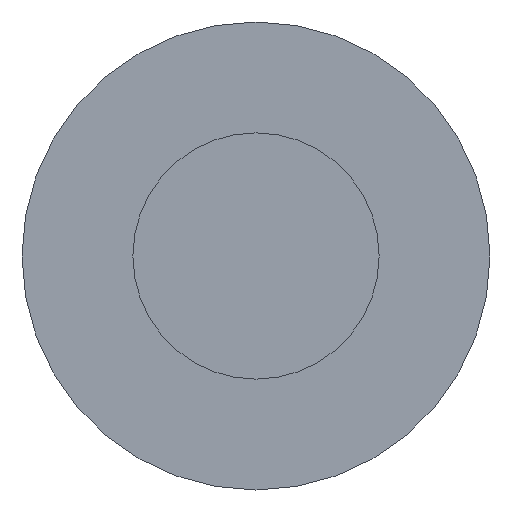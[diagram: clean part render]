
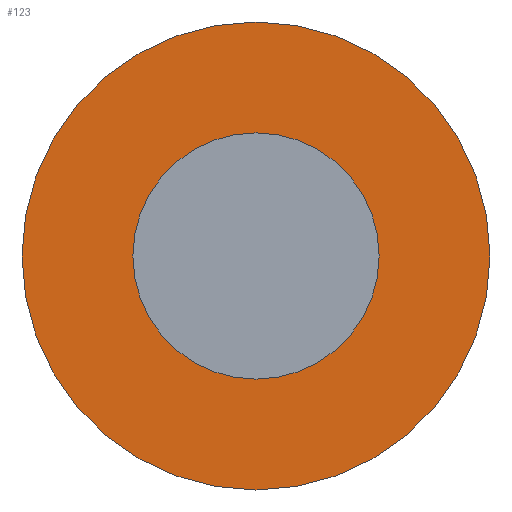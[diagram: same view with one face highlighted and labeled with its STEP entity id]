
A CAD part, front view. The second image highlights one B-rep face of the part: STEP entity #123.
In plain terms, the highlighted planar face has unit normal (0, -1, 0).
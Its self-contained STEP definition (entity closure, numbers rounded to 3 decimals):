
#39 = EDGE_CURVE('',#40,#40,#42,.T.);
#40 = VERTEX_POINT('',#41);
#41 = CARTESIAN_POINT('',(23.9,-3.7,-65.8));
#42 = SURFACE_CURVE('',#43,(#48,#60),.PCURVE_S1.);
#43 = CIRCLE('',#44,1.9);
#44 = AXIS2_PLACEMENT_3D('',#45,#46,#47);
#45 = CARTESIAN_POINT('',(22.,-3.7,-65.8));
#46 = DIRECTION('',(0.,-1.,0.));
#47 = DIRECTION('',(1.,0.,0.));
#48 = PCURVE('',#49,#54);
#49 = CYLINDRICAL_SURFACE('',#50,1.9);
#50 = AXIS2_PLACEMENT_3D('',#51,#52,#53);
#51 = CARTESIAN_POINT('',(22.,-1.7,-65.8));
#52 = DIRECTION('',(0.,-1.,0.));
#53 = DIRECTION('',(1.,0.,0.));
#54 = DEFINITIONAL_REPRESENTATION('',(#55),#59);
#55 = LINE('',#56,#57);
#56 = CARTESIAN_POINT('',(0.,2.));
#57 = VECTOR('',#58,1.);
#58 = DIRECTION('',(1.,0.));
#59 = ( GEOMETRIC_REPRESENTATION_CONTEXT(2) 
PARAMETRIC_REPRESENTATION_CONTEXT() REPRESENTATION_CONTEXT('2D SPACE',''
  ) );
#60 = PCURVE('',#61,#66);
#61 = PLANE('',#62);
#62 = AXIS2_PLACEMENT_3D('',#63,#64,#65);
#63 = CARTESIAN_POINT('',(22.,-3.7,-65.8));
#64 = DIRECTION('',(0.,-1.,0.));
#65 = DIRECTION('',(1.,0.,0.));
#66 = DEFINITIONAL_REPRESENTATION('',(#67),#71);
#67 = CIRCLE('',#68,1.9);
#68 = AXIS2_PLACEMENT_2D('',#69,#70);
#69 = CARTESIAN_POINT('',(0.,0.));
#70 = DIRECTION('',(1.,0.));
#71 = ( GEOMETRIC_REPRESENTATION_CONTEXT(2) 
PARAMETRIC_REPRESENTATION_CONTEXT() REPRESENTATION_CONTEXT('2D SPACE',''
  ) );
#123 = ADVANCED_FACE('',(#124,#127),#61,.T.);
#124 = FACE_BOUND('',#125,.T.);
#125 = EDGE_LOOP('',(#126));
#126 = ORIENTED_EDGE('',*,*,#39,.T.);
#127 = FACE_BOUND('',#128,.T.);
#128 = EDGE_LOOP('',(#129));
#129 = ORIENTED_EDGE('',*,*,#130,.F.);
#130 = EDGE_CURVE('',#131,#131,#133,.T.);
#131 = VERTEX_POINT('',#132);
#132 = CARTESIAN_POINT('',(23.,-3.7,-65.8));
#133 = SURFACE_CURVE('',#134,(#139,#146),.PCURVE_S1.);
#134 = CIRCLE('',#135,1.);
#135 = AXIS2_PLACEMENT_3D('',#136,#137,#138);
#136 = CARTESIAN_POINT('',(22.,-3.7,-65.8));
#137 = DIRECTION('',(0.,-1.,0.));
#138 = DIRECTION('',(1.,0.,0.));
#139 = PCURVE('',#61,#140);
#140 = DEFINITIONAL_REPRESENTATION('',(#141),#145);
#141 = CIRCLE('',#142,1.);
#142 = AXIS2_PLACEMENT_2D('',#143,#144);
#143 = CARTESIAN_POINT('',(0.,0.));
#144 = DIRECTION('',(1.,0.));
#145 = ( GEOMETRIC_REPRESENTATION_CONTEXT(2) 
PARAMETRIC_REPRESENTATION_CONTEXT() REPRESENTATION_CONTEXT('2D SPACE',''
  ) );
#146 = PCURVE('',#147,#152);
#147 = CYLINDRICAL_SURFACE('',#148,1.);
#148 = AXIS2_PLACEMENT_3D('',#149,#150,#151);
#149 = CARTESIAN_POINT('',(22.,-3.7,-65.8));
#150 = DIRECTION('',(0.,-1.,0.));
#151 = DIRECTION('',(1.,0.,0.));
#152 = DEFINITIONAL_REPRESENTATION('',(#153),#157);
#153 = LINE('',#154,#155);
#154 = CARTESIAN_POINT('',(0.,0.));
#155 = VECTOR('',#156,1.);
#156 = DIRECTION('',(1.,0.));
#157 = ( GEOMETRIC_REPRESENTATION_CONTEXT(2) 
PARAMETRIC_REPRESENTATION_CONTEXT() REPRESENTATION_CONTEXT('2D SPACE',''
  ) );
